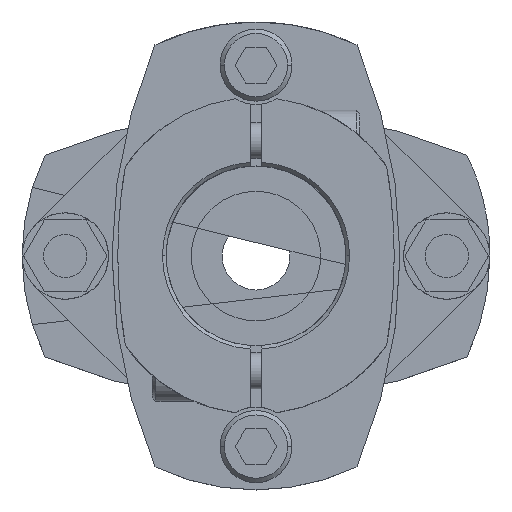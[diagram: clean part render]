
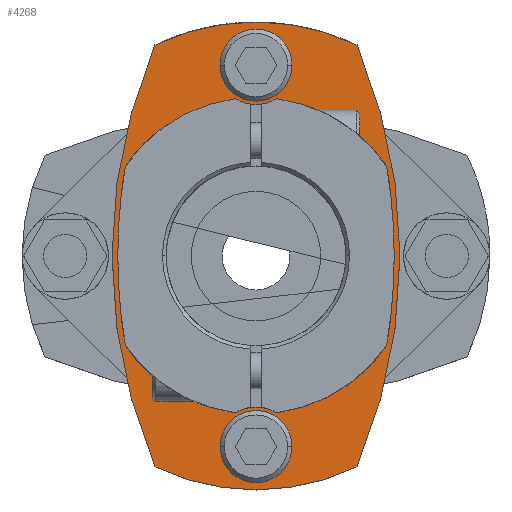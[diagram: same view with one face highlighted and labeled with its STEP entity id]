
A CAD part, top view. The second image highlights one B-rep face of the part: STEP entity #4268.
In plain terms, the highlighted planar face has unit normal (0, 0, 1).
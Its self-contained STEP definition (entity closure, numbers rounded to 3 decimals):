
#1172=CARTESIAN_POINT('',(-20.,0.,9.75));
#1173=VERTEX_POINT('',#1172);
#1189=CARTESIAN_POINT('',(-14.034,-29.314,9.75));
#1190=VERTEX_POINT('',#1189);
#1197=CARTESIAN_POINT('',(55.,0.,9.75));
#1198=DIRECTION('',(0.0,0.0,-1.0));
#1199=DIRECTION('',(-1.0,0.0,0.0));
#1200=AXIS2_PLACEMENT_3D('',#1197,#1198,#1199);
#1201=CIRCLE('',#1200,75.);
#1202=EDGE_CURVE('',#1190,#1173,#1201,.T.);
#1212=CARTESIAN_POINT('',(20.,0.,9.75));
#1213=VERTEX_POINT('',#1212);
#1222=CARTESIAN_POINT('',(14.034,-29.314,9.75));
#1223=VERTEX_POINT('',#1222);
#1224=CARTESIAN_POINT('',(-55.,0.,9.75));
#1225=DIRECTION('',(0.0,0.0,-1.0));
#1226=DIRECTION('',(-1.0,0.0,0.0));
#1227=AXIS2_PLACEMENT_3D('',#1224,#1225,#1226);
#1228=CIRCLE('',#1227,75.);
#1229=EDGE_CURVE('',#1213,#1223,#1228,.T.);
#1254=CARTESIAN_POINT('',(-19.2,0.,9.75));
#1255=VERTEX_POINT('',#1254);
#1264=CARTESIAN_POINT('',(-18.151,-12.431,9.75));
#1265=VERTEX_POINT('',#1264);
#1266=CARTESIAN_POINT('',(55.,0.,9.75));
#1267=DIRECTION('',(0.0,0.0,-1.0));
#1268=DIRECTION('',(-1.0,0.0,0.0));
#1269=AXIS2_PLACEMENT_3D('',#1266,#1267,#1268);
#1270=CIRCLE('',#1269,74.2);
#1271=EDGE_CURVE('',#1265,#1255,#1270,.T.);
#1408=CARTESIAN_POINT('',(19.2,0.,9.75));
#1409=VERTEX_POINT('',#1408);
#1459=CARTESIAN_POINT('',(18.151,-12.431,9.75));
#1460=VERTEX_POINT('',#1459);
#1467=CARTESIAN_POINT('',(-55.,0.,9.75));
#1468=DIRECTION('',(0.0,0.0,-1.0));
#1469=DIRECTION('',(-1.0,0.0,0.0));
#1470=AXIS2_PLACEMENT_3D('',#1467,#1468,#1469);
#1471=CIRCLE('',#1470,74.2);
#1472=EDGE_CURVE('',#1409,#1460,#1471,.T.);
#1666=CARTESIAN_POINT('',(-5.,-26.5,9.75));
#1667=VERTEX_POINT('',#1666);
#1676=CARTESIAN_POINT('',(5.,-26.5,9.75));
#1677=VERTEX_POINT('',#1676);
#1678=CARTESIAN_POINT('',(0.,-26.5,9.75));
#1679=DIRECTION('',(0.0,0.0,-1.0));
#1680=DIRECTION('',(-1.0,0.0,0.0));
#1681=AXIS2_PLACEMENT_3D('',#1678,#1679,#1680);
#1682=CIRCLE('',#1681,5.0);
#1683=EDGE_CURVE('',#1677,#1667,#1682,.T.);
#1740=CARTESIAN_POINT('',(-5.,26.5,9.75));
#1741=VERTEX_POINT('',#1740);
#1750=CARTESIAN_POINT('',(5.,26.5,9.75));
#1751=VERTEX_POINT('',#1750);
#1752=CARTESIAN_POINT('',(0.,26.5,9.75));
#1753=DIRECTION('',(0.0,0.0,-1.0));
#1754=DIRECTION('',(-1.0,0.0,0.0));
#1755=AXIS2_PLACEMENT_3D('',#1752,#1753,#1754);
#1756=CIRCLE('',#1755,5.0);
#1757=EDGE_CURVE('',#1751,#1741,#1756,.T.);
#3357=CARTESIAN_POINT('',(0.,26.5,9.75));
#3358=DIRECTION('',(0.0,0.0,-1.0));
#3359=DIRECTION('',(-1.0,0.0,0.0));
#3360=AXIS2_PLACEMENT_3D('',#3357,#3358,#3359);
#3361=CIRCLE('',#3360,5.0);
#3362=EDGE_CURVE('',#1741,#1751,#3361,.T.);
#3459=CARTESIAN_POINT('',(0.,-26.5,9.75));
#3460=DIRECTION('',(0.0,0.0,-1.0));
#3461=DIRECTION('',(-1.0,0.0,0.0));
#3462=AXIS2_PLACEMENT_3D('',#3459,#3460,#3461);
#3463=CIRCLE('',#3462,5.0);
#3464=EDGE_CURVE('',#1667,#1677,#3463,.T.);
#3927=CARTESIAN_POINT('',(2.875,-21.811,9.75));
#3928=VERTEX_POINT('',#3927);
#3944=CARTESIAN_POINT('',(-2.875,-21.811,9.75));
#3945=VERTEX_POINT('',#3944);
#3952=CARTESIAN_POINT('',(0.,-26.5,9.75));
#3953=DIRECTION('',(0.0,0.0,1.0));
#3954=DIRECTION('',(-1.0,0.0,0.0));
#3955=AXIS2_PLACEMENT_3D('',#3952,#3953,#3954);
#3956=CIRCLE('',#3955,5.5);
#3957=EDGE_CURVE('',#3928,#3945,#3956,.T.);
#4044=CARTESIAN_POINT('',(-2.875,21.811,9.75));
#4045=VERTEX_POINT('',#4044);
#4061=CARTESIAN_POINT('',(2.875,21.811,9.75));
#4062=VERTEX_POINT('',#4061);
#4069=CARTESIAN_POINT('',(0.,26.5,9.75));
#4070=DIRECTION('',(0.0,0.0,1.0));
#4071=DIRECTION('',(-1.0,0.0,0.0));
#4072=AXIS2_PLACEMENT_3D('',#4069,#4070,#4071);
#4073=CIRCLE('',#4072,5.5);
#4074=EDGE_CURVE('',#4045,#4062,#4073,.T.);
#4093=CARTESIAN_POINT('',(0.,0.,9.75));
#4094=DIRECTION('',(0.0,0.0,-1.0));
#4095=DIRECTION('',(-1.0,0.0,0.0));
#4096=AXIS2_PLACEMENT_3D('',#4093,#4094,#4095);
#4097=CIRCLE('',#4096,22.);
#4098=EDGE_CURVE('',#3945,#1265,#4097,.T.);
#4173=CARTESIAN_POINT('',(0.,0.,9.75));
#4174=DIRECTION('',(0.0,0.0,1.0));
#4175=DIRECTION('',(-1.0,0.0,0.0));
#4176=AXIS2_PLACEMENT_3D('',#4173,#4174,#4175);
#4177=PLANE('',#4176);
#4178=CARTESIAN_POINT('',(14.034,29.314,9.75));
#4179=VERTEX_POINT('',#4178);
#4180=CARTESIAN_POINT('',(-55.,0.,9.75));
#4181=DIRECTION('',(0.0,0.0,-1.0));
#4182=DIRECTION('',(-1.0,0.0,0.0));
#4183=AXIS2_PLACEMENT_3D('',#4180,#4181,#4182);
#4184=CIRCLE('',#4183,75.);
#4185=EDGE_CURVE('',#4179,#1213,#4184,.T.);
#4186=ORIENTED_EDGE('',*,*,#4185,.F.);
#4187=CARTESIAN_POINT('',(-14.034,29.314,9.75));
#4188=VERTEX_POINT('',#4187);
#4189=CARTESIAN_POINT('',(0.0,0.,9.75));
#4190=DIRECTION('',(0.0,0.0,-1.0));
#4191=DIRECTION('',(-1.0,0.0,0.0));
#4192=AXIS2_PLACEMENT_3D('',#4189,#4190,#4191);
#4193=CIRCLE('',#4192,32.5);
#4194=EDGE_CURVE('',#4188,#4179,#4193,.T.);
#4195=ORIENTED_EDGE('',*,*,#4194,.F.);
#4196=CARTESIAN_POINT('',(55.,0.,9.75));
#4197=DIRECTION('',(0.0,0.0,-1.0));
#4198=DIRECTION('',(-1.0,0.0,0.0));
#4199=AXIS2_PLACEMENT_3D('',#4196,#4197,#4198);
#4200=CIRCLE('',#4199,75.);
#4201=EDGE_CURVE('',#1173,#4188,#4200,.T.);
#4202=ORIENTED_EDGE('',*,*,#4201,.F.);
#4203=ORIENTED_EDGE('',*,*,#1202,.F.);
#4204=CARTESIAN_POINT('',(0.0,0.,9.75));
#4205=DIRECTION('',(0.0,0.0,-1.0));
#4206=DIRECTION('',(-1.0,0.0,0.0));
#4207=AXIS2_PLACEMENT_3D('',#4204,#4205,#4206);
#4208=CIRCLE('',#4207,32.5);
#4209=EDGE_CURVE('',#1223,#1190,#4208,.T.);
#4210=ORIENTED_EDGE('',*,*,#4209,.F.);
#4211=ORIENTED_EDGE('',*,*,#1229,.F.);
#4212=EDGE_LOOP('',(#4186,#4195,#4202,#4203,#4210,#4211));
#4213=FACE_OUTER_BOUND('',#4212,.T.);
#4214=ORIENTED_EDGE('',*,*,#3464,.T.);
#4215=ORIENTED_EDGE('',*,*,#1683,.T.);
#4216=EDGE_LOOP('',(#4214,#4215));
#4217=FACE_BOUND('',#4216,.T.);
#4218=ORIENTED_EDGE('',*,*,#3362,.T.);
#4219=ORIENTED_EDGE('',*,*,#1757,.T.);
#4220=EDGE_LOOP('',(#4218,#4219));
#4221=FACE_BOUND('',#4220,.T.);
#4222=ORIENTED_EDGE('',*,*,#4098,.T.);
#4223=ORIENTED_EDGE('',*,*,#1271,.T.);
#4224=CARTESIAN_POINT('',(-18.151,12.431,9.75));
#4225=VERTEX_POINT('',#4224);
#4226=CARTESIAN_POINT('',(55.,0.,9.75));
#4227=DIRECTION('',(0.0,0.0,-1.0));
#4228=DIRECTION('',(-1.0,0.0,0.0));
#4229=AXIS2_PLACEMENT_3D('',#4226,#4227,#4228);
#4230=CIRCLE('',#4229,74.2);
#4231=EDGE_CURVE('',#1255,#4225,#4230,.T.);
#4232=ORIENTED_EDGE('',*,*,#4231,.T.);
#4233=CARTESIAN_POINT('',(0.,0.,9.75));
#4234=DIRECTION('',(0.0,0.0,-1.0));
#4235=DIRECTION('',(-1.0,0.0,0.0));
#4236=AXIS2_PLACEMENT_3D('',#4233,#4234,#4235);
#4237=CIRCLE('',#4236,22.);
#4238=EDGE_CURVE('',#4225,#4045,#4237,.T.);
#4239=ORIENTED_EDGE('',*,*,#4238,.T.);
#4240=ORIENTED_EDGE('',*,*,#4074,.T.);
#4241=CARTESIAN_POINT('',(18.151,12.431,9.75));
#4242=VERTEX_POINT('',#4241);
#4243=CARTESIAN_POINT('',(0.,0.,9.75));
#4244=DIRECTION('',(0.0,0.0,-1.0));
#4245=DIRECTION('',(-1.0,0.0,0.0));
#4246=AXIS2_PLACEMENT_3D('',#4243,#4244,#4245);
#4247=CIRCLE('',#4246,22.);
#4248=EDGE_CURVE('',#4062,#4242,#4247,.T.);
#4249=ORIENTED_EDGE('',*,*,#4248,.T.);
#4250=CARTESIAN_POINT('',(-55.,0.,9.75));
#4251=DIRECTION('',(0.0,0.0,-1.0));
#4252=DIRECTION('',(-1.0,0.0,0.0));
#4253=AXIS2_PLACEMENT_3D('',#4250,#4251,#4252);
#4254=CIRCLE('',#4253,74.2);
#4255=EDGE_CURVE('',#4242,#1409,#4254,.T.);
#4256=ORIENTED_EDGE('',*,*,#4255,.T.);
#4257=ORIENTED_EDGE('',*,*,#1472,.T.);
#4258=CARTESIAN_POINT('',(0.,0.,9.75));
#4259=DIRECTION('',(0.0,0.0,-1.0));
#4260=DIRECTION('',(-1.0,0.0,0.0));
#4261=AXIS2_PLACEMENT_3D('',#4258,#4259,#4260);
#4262=CIRCLE('',#4261,22.);
#4263=EDGE_CURVE('',#1460,#3928,#4262,.T.);
#4264=ORIENTED_EDGE('',*,*,#4263,.T.);
#4265=ORIENTED_EDGE('',*,*,#3957,.T.);
#4266=EDGE_LOOP('',(#4222,#4223,#4232,#4239,#4240,#4249,#4256,#4257,#4264,#4265));
#4267=FACE_BOUND('',#4266,.T.);
#4268=ADVANCED_FACE('',(#4213,#4217,#4221,#4267),#4177,.T.);
